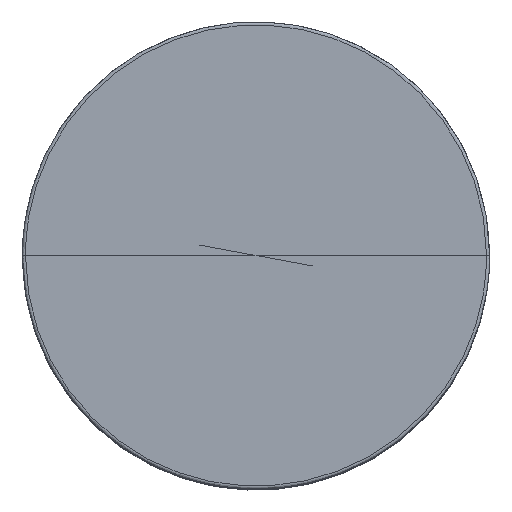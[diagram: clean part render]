
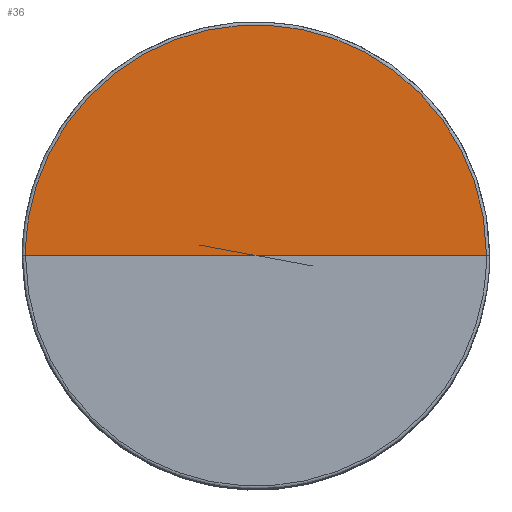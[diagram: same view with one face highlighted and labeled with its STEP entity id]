
A CAD part, top view. The second image highlights one B-rep face of the part: STEP entity #36.
In plain terms, the highlighted free-form (B-spline) face has degree [2, 1] with [5, 2] control points.
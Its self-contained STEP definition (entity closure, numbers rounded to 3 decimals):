
#36=ADVANCED_FACE('',(#78),#532,.T.);
#78=FACE_OUTER_BOUND('',#120,.T.);
#120=EDGE_LOOP('',(#223,#224,#225));
#223=ORIENTED_EDGE('',*,*,#347,.T.);
#224=ORIENTED_EDGE('',*,*,#306,.T.);
#225=ORIENTED_EDGE('',*,*,#346,.F.);
#306=EDGE_CURVE('',#471,#470,#442,.T.);
#346=EDGE_CURVE('',#491,#470,#455,.T.);
#347=EDGE_CURVE('',#491,#471,#414,.T.);
#414=(
BOUNDED_CURVE()
B_SPLINE_CURVE(2,(#1350,#1351,#1352,#1353,#1354),.UNSPECIFIED.,.F.,.F.)
B_SPLINE_CURVE_WITH_KNOTS((3,2,3),(549.779,824.668,1099.557),
 .UNSPECIFIED.)
CURVE()
GEOMETRIC_REPRESENTATION_ITEM()
RATIONAL_B_SPLINE_CURVE((1.,0.707,1.,0.707,1.))
REPRESENTATION_ITEM('')
);
#442=B_SPLINE_CURVE_WITH_KNOTS('',1,(#1193,#1194),.UNSPECIFIED.,.F.,.F.,
(2,2),(737.449,910.115),.UNSPECIFIED.);
#455=B_SPLINE_CURVE_WITH_KNOTS('',1,(#1348,#1349),.UNSPECIFIED.,.F.,.F.,
(2,2),(737.449,910.115),.UNSPECIFIED.);
#470=VERTEX_POINT('',#1150);
#471=VERTEX_POINT('',#1151);
#491=VERTEX_POINT('',#1171);
#532=(
BOUNDED_SURFACE()
B_SPLINE_SURFACE(2,1,((#864,#865),(#866,#867),(#868,#869),(#870,#871),(#872,
#873)),.UNSPECIFIED.,.F.,.F.,.F.)
B_SPLINE_SURFACE_WITH_KNOTS((3,2,3),(2,2),(549.779,824.668,
1099.557),(737.449,910.115),.UNSPECIFIED.)
GEOMETRIC_REPRESENTATION_ITEM()
RATIONAL_B_SPLINE_SURFACE(((1.,1.),(0.707,0.707),
(1.,1.),(0.707,0.707),(1.,1.)))
REPRESENTATION_ITEM('')
SURFACE()
);
#864=CARTESIAN_POINT('',(172.667,0.,430.));
#865=CARTESIAN_POINT('',(0.,0.,430.));
#866=CARTESIAN_POINT('',(172.667,172.667,430.));
#867=CARTESIAN_POINT('',(0.,0.,430.));
#868=CARTESIAN_POINT('',(0.,172.667,430.));
#869=CARTESIAN_POINT('',(0.,0.,430.));
#870=CARTESIAN_POINT('',(-172.667,172.667,430.));
#871=CARTESIAN_POINT('',(0.,0.,430.));
#872=CARTESIAN_POINT('',(-172.667,0.,430.));
#873=CARTESIAN_POINT('',(0.,0.,430.));
#1150=CARTESIAN_POINT('',(0.,0.,430.));
#1151=CARTESIAN_POINT('',(-172.667,0.,430.));
#1171=CARTESIAN_POINT('',(172.667,0.,430.));
#1193=CARTESIAN_POINT('',(-172.667,0.,430.));
#1194=CARTESIAN_POINT('',(0.,0.,430.));
#1348=CARTESIAN_POINT('',(172.667,0.,430.));
#1349=CARTESIAN_POINT('',(0.,0.,430.));
#1350=CARTESIAN_POINT('',(172.667,0.,430.));
#1351=CARTESIAN_POINT('',(172.667,172.667,430.));
#1352=CARTESIAN_POINT('',(0.,172.667,430.));
#1353=CARTESIAN_POINT('',(-172.667,172.667,430.));
#1354=CARTESIAN_POINT('',(-172.667,0.,430.));
